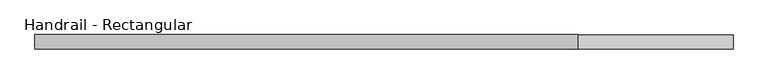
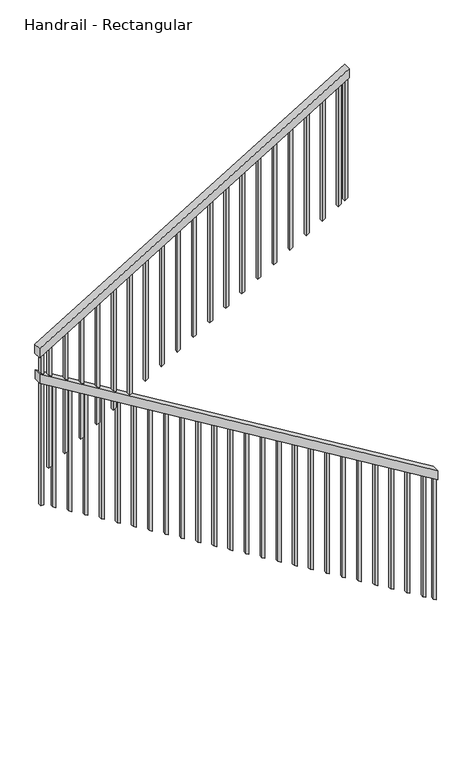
"""IFC4 building model written with IfcOpenShell, lengths in millimetres: railing geometry, Handrail - Rectangular."""

from ifc_helpers import new_model, si_unit, frame, origin, place, context, project, spatial, polyline, outline, extrude, source, transform, mapped, element, save


def handrail_rectangular_be6d6456(model_context):
    return source(origin(), model_context, "Body", "SweptSolid", [
        extrude(outline(polyline([(1024.3318731, -9134.3892301), (1083.7333333, -9134.3892301), (2607.7333333, -11648.9892301), (2548.3318731, -11648.9892301), (1024.3318731, -9134.3892301)])), frame((0.0, 4662.0514029, 0.0), z_axis=(0.0, 1.0, 0.0), x_axis=(0.0, 0.0, 1.0)), (0.0, 0.0, 1.0), 50.8),
        extrude(outline(polyline([(2777.0666667, -11648.9892301), (2717.6652064, -11648.9892301), (3902.9985397, -9693.1892301), (3962.4, -9693.1892301), (2777.0666667, -11648.9892301)])), frame((0.0, 4663.2611499, 0.0), z_axis=(0.0, 1.0, 0.0), x_axis=(0.0, 0.0, 1.0)), (0.0, 0.0, 1.0), 50.8),
        extrude(outline(polyline([(3877.9833882, -9734.4642301), (3866.4379337, -9753.5142301), (3054.2205726, -9753.5142301), (3065.7660271, -9734.4642301), (3877.9833882, -9734.4642301)])), frame((0.0, 4679.1361499, 0.0), z_axis=(0.0, 1.0, 0.0), x_axis=(0.0, 0.0, 1.0)), (0.0, 0.0, 1.0), 19.05),
        extrude(outline(polyline([(3816.4076307, -9836.0642301), (3804.8621761, -9855.1142301), (2992.644815, -9855.1142301), (3004.1902695, -9836.0642301), (3816.4076307, -9836.0642301)])), frame((0.0, 4679.1361499, 0.0), z_axis=(0.0, 1.0, 0.0), x_axis=(0.0, 0.0, 1.0)), (0.0, 0.0, 1.0), 19.05),
        extrude(outline(polyline([(3754.8318731, -9937.6642301), (3743.2864185, -9956.7142301), (2931.0690574, -9956.7142301), (2942.614512, -9937.6642301), (3754.8318731, -9937.6642301)])), frame((0.0, 4679.1361499, 0.0), z_axis=(0.0, 1.0, 0.0), x_axis=(0.0, 0.0, 1.0)), (0.0, 0.0, 1.0), 19.05),
        extrude(outline(polyline([(3693.2561155, -10039.2642301), (3681.710661, -10058.3142301), (2869.4932998, -10058.3142301), (2881.0387544, -10039.2642301), (3693.2561155, -10039.2642301)])), frame((0.0, 4679.1361499, 0.0), z_axis=(0.0, 1.0, 0.0), x_axis=(0.0, 0.0, 1.0)), (0.0, 0.0, 1.0), 19.05),
        extrude(outline(polyline([(3631.6803579, -10140.8642301), (3620.1349034, -10159.9142301), (2807.9175423, -10159.9142301), (2819.4629968, -10140.8642301), (3631.6803579, -10140.8642301)])), frame((0.0, 4679.1361499, 0.0), z_axis=(0.0, 1.0, 0.0), x_axis=(0.0, 0.0, 1.0)), (0.0, 0.0, 1.0), 19.05),
        extrude(outline(polyline([(3570.1046004, -10242.4642301), (3558.5591458, -10261.5142301), (2746.3417847, -10261.5142301), (2757.8872392, -10242.4642301), (3570.1046004, -10242.4642301)])), frame((0.0, 4679.1361499, 0.0), z_axis=(0.0, 1.0, 0.0), x_axis=(0.0, 0.0, 1.0)), (0.0, 0.0, 1.0), 19.05),
        extrude(outline(polyline([(3508.5288428, -10344.0642301), (3496.9833882, -10363.1142301), (2684.7660271, -10363.1142301), (2696.3114817, -10344.0642301), (3508.5288428, -10344.0642301)])), frame((0.0, 4679.1361499, 0.0), z_axis=(0.0, 1.0, 0.0), x_axis=(0.0, 0.0, 1.0)), (0.0, 0.0, 1.0), 19.05),
        extrude(outline(polyline([(3446.9530852, -10445.6642301), (3435.4076307, -10464.7142301), (2623.1902695, -10464.7142301), (2634.7357241, -10445.6642301), (3446.9530852, -10445.6642301)])), frame((0.0, 4679.1361499, 0.0), z_axis=(0.0, 1.0, 0.0), x_axis=(0.0, 0.0, 1.0)), (0.0, 0.0, 1.0), 19.05),
        extrude(outline(polyline([(3385.3773276, -10547.2642301), (3373.8318731, -10566.3142301), (2561.614512, -10566.3142301), (2573.1599665, -10547.2642301), (3385.3773276, -10547.2642301)])), frame((0.0, 4679.1361499, 0.0), z_axis=(0.0, 1.0, 0.0), x_axis=(0.0, 0.0, 1.0)), (0.0, 0.0, 1.0), 19.05),
        extrude(outline(polyline([(3323.80157, -10648.8642301), (3312.2561155, -10667.9142301), (2500.0387544, -10667.9142301), (2511.5842089, -10648.8642301), (3323.80157, -10648.8642301)])), frame((0.0, 4679.1361499, 0.0), z_axis=(0.0, 1.0, 0.0), x_axis=(0.0, 0.0, 1.0)), (0.0, 0.0, 1.0), 19.05),
        extrude(outline(polyline([(3262.2258125, -10750.4642301), (3250.6803579, -10769.5142301), (2438.4629968, -10769.5142301), (2450.0084514, -10750.4642301), (3262.2258125, -10750.4642301)])), frame((0.0, 4679.1361499, 0.0), z_axis=(0.0, 1.0, 0.0), x_axis=(0.0, 0.0, 1.0)), (0.0, 0.0, 1.0), 19.05),
        extrude(outline(polyline([(3200.6500549, -10852.0642301), (3189.1046004, -10871.1142301), (2376.8872392, -10871.1142301), (2388.4326938, -10852.0642301), (3200.6500549, -10852.0642301)])), frame((0.0, 4679.1361499, 0.0), z_axis=(0.0, 1.0, 0.0), x_axis=(0.0, 0.0, 1.0)), (0.0, 0.0, 1.0), 19.05),
        extrude(outline(polyline([(3139.0742973, -10953.6642301), (3127.5288428, -10972.7142301), (2315.3114817, -10972.7142301), (2326.8569362, -10953.6642301), (3139.0742973, -10953.6642301)])), frame((0.0, 4679.1361499, 0.0), z_axis=(0.0, 1.0, 0.0), x_axis=(0.0, 0.0, 1.0)), (0.0, 0.0, 1.0), 19.05),
        extrude(outline(polyline([(3077.4985397, -11055.2642301), (3065.9530852, -11074.3142301), (2253.7357241, -11074.3142301), (2265.2811786, -11055.2642301), (3077.4985397, -11055.2642301)])), frame((0.0, 4679.1361499, 0.0), z_axis=(0.0, 1.0, 0.0), x_axis=(0.0, 0.0, 1.0)), (0.0, 0.0, 1.0), 19.05),
        extrude(outline(polyline([(3015.9227822, -11156.8642301), (3004.3773276, -11175.9142301), (2192.1599665, -11175.9142301), (2203.7054211, -11156.8642301), (3015.9227822, -11156.8642301)])), frame((0.0, 4679.1361499, 0.0), z_axis=(0.0, 1.0, 0.0), x_axis=(0.0, 0.0, 1.0)), (0.0, 0.0, 1.0), 19.05),
        extrude(outline(polyline([(2954.3470246, -11258.4642301), (2942.80157, -11277.5142301), (2130.5842089, -11277.5142301), (2142.1296635, -11258.4642301), (2954.3470246, -11258.4642301)])), frame((0.0, 4679.1361499, 0.0), z_axis=(0.0, 1.0, 0.0), x_axis=(0.0, 0.0, 1.0)), (0.0, 0.0, 1.0), 19.05),
        extrude(outline(polyline([(2892.771267, -11360.0642301), (2881.2258125, -11379.1142301), (2069.0084514, -11379.1142301), (2080.5539059, -11360.0642301), (2892.771267, -11360.0642301)])), frame((0.0, 4679.1361499, 0.0), z_axis=(0.0, 1.0, 0.0), x_axis=(0.0, 0.0, 1.0)), (0.0, 0.0, 1.0), 19.05),
        extrude(outline(polyline([(2831.1955094, -11461.6642301), (2819.6500549, -11480.7142301), (2007.4326938, -11480.7142301), (2018.9781483, -11461.6642301), (2831.1955094, -11461.6642301)])), frame((0.0, 4679.1361499, 0.0), z_axis=(0.0, 1.0, 0.0), x_axis=(0.0, 0.0, 1.0)), (0.0, 0.0, 1.0), 19.05),
        extrude(outline(polyline([(2769.6197519, -11563.2642301), (2758.0742973, -11582.3142301), (1945.8569362, -11582.3142301), (1957.4023907, -11563.2642301), (2769.6197519, -11563.2642301)])), frame((0.0, 4679.1361499, 0.0), z_axis=(0.0, 1.0, 0.0), x_axis=(0.0, 0.0, 1.0)), (0.0, 0.0, 1.0), 19.05),
        extrude(outline(polyline([(2480.9833882, -11537.8642301), (2492.5288428, -11556.9142301), (1680.3114817, -11556.9142301), (1668.7660271, -11537.8642301), (2480.9833882, -11537.8642301)])), frame((0.0, 4677.9264029, 0.0), z_axis=(0.0, 1.0, 0.0), x_axis=(0.0, 0.0, 1.0)), (0.0, 0.0, 1.0), 19.05),
        extrude(outline(polyline([(2419.4076307, -11436.2642301), (2430.9530852, -11455.3142301), (1618.7357241, -11455.3142301), (1607.1902695, -11436.2642301), (2419.4076307, -11436.2642301)])), frame((0.0, 4677.9264029, 0.0), z_axis=(0.0, 1.0, 0.0), x_axis=(0.0, 0.0, 1.0)), (0.0, 0.0, 1.0), 19.05),
        extrude(outline(polyline([(2357.8318731, -11334.6642301), (2369.3773276, -11353.7142301), (1557.1599665, -11353.7142301), (1545.614512, -11334.6642301), (2357.8318731, -11334.6642301)])), frame((0.0, 4677.9264029, 0.0), z_axis=(0.0, 1.0, 0.0), x_axis=(0.0, 0.0, 1.0)), (0.0, 0.0, 1.0), 19.05),
        extrude(outline(polyline([(2296.2561155, -11233.0642301), (2307.80157, -11252.1142301), (1495.5842089, -11252.1142301), (1484.0387544, -11233.0642301), (2296.2561155, -11233.0642301)])), frame((0.0, 4677.9264029, 0.0), z_axis=(0.0, 1.0, 0.0), x_axis=(0.0, 0.0, 1.0)), (0.0, 0.0, 1.0), 19.05),
        extrude(outline(polyline([(2234.6803579, -11131.4642301), (2246.2258125, -11150.5142301), (1434.0084514, -11150.5142301), (1422.4629968, -11131.4642301), (2234.6803579, -11131.4642301)])), frame((0.0, 4677.9264029, 0.0), z_axis=(0.0, 1.0, 0.0), x_axis=(0.0, 0.0, 1.0)), (0.0, 0.0, 1.0), 19.05),
        extrude(outline(polyline([(2173.1046004, -11029.8642301), (2184.6500549, -11048.9142301), (1372.4326938, -11048.9142301), (1360.8872392, -11029.8642301), (2173.1046004, -11029.8642301)])), frame((0.0, 4677.9264029, 0.0), z_axis=(0.0, 1.0, 0.0), x_axis=(0.0, 0.0, 1.0)), (0.0, 0.0, 1.0), 19.05),
        extrude(outline(polyline([(2111.5288428, -10928.2642301), (2123.0742973, -10947.3142301), (1310.8569362, -10947.3142301), (1299.3114817, -10928.2642301), (2111.5288428, -10928.2642301)])), frame((0.0, 4677.9264029, 0.0), z_axis=(0.0, 1.0, 0.0), x_axis=(0.0, 0.0, 1.0)), (0.0, 0.0, 1.0), 19.05),
        extrude(outline(polyline([(2049.9530852, -10826.6642301), (2061.4985397, -10845.7142301), (1249.2811786, -10845.7142301), (1237.7357241, -10826.6642301), (2049.9530852, -10826.6642301)])), frame((0.0, 4677.9264029, 0.0), z_axis=(0.0, 1.0, 0.0), x_axis=(0.0, 0.0, 1.0)), (0.0, 0.0, 1.0), 19.05),
        extrude(outline(polyline([(1988.3773276, -10725.0642301), (1999.9227822, -10744.1142301), (1187.7054211, -10744.1142301), (1176.1599665, -10725.0642301), (1988.3773276, -10725.0642301)])), frame((0.0, 4677.9264029, 0.0), z_axis=(0.0, 1.0, 0.0), x_axis=(0.0, 0.0, 1.0)), (0.0, 0.0, 1.0), 19.05),
        extrude(outline(polyline([(1926.80157, -10623.4642301), (1938.3470246, -10642.5142301), (1126.1296635, -10642.5142301), (1114.5842089, -10623.4642301), (1926.80157, -10623.4642301)])), frame((0.0, 4677.9264029, 0.0), z_axis=(0.0, 1.0, 0.0), x_axis=(0.0, 0.0, 1.0)), (0.0, 0.0, 1.0), 19.05),
        extrude(outline(polyline([(1865.2258125, -10521.8642301), (1876.771267, -10540.9142301), (1064.5539059, -10540.9142301), (1053.0084514, -10521.8642301), (1865.2258125, -10521.8642301)])), frame((0.0, 4677.9264029, 0.0), z_axis=(0.0, 1.0, 0.0), x_axis=(0.0, 0.0, 1.0)), (0.0, 0.0, 1.0), 19.05),
        extrude(outline(polyline([(1803.6500549, -10420.2642301), (1815.1955094, -10439.3142301), (1002.9781483, -10439.3142301), (991.4326938, -10420.2642301), (1803.6500549, -10420.2642301)])), frame((0.0, 4677.9264029, 0.0), z_axis=(0.0, 1.0, 0.0), x_axis=(0.0, 0.0, 1.0)), (0.0, 0.0, 1.0), 19.05),
        extrude(outline(polyline([(1742.0742973, -10318.6642301), (1753.6197519, -10337.7142301), (941.4023907, -10337.7142301), (929.8569362, -10318.6642301), (1742.0742973, -10318.6642301)])), frame((0.0, 4677.9264029, 0.0), z_axis=(0.0, 1.0, 0.0), x_axis=(0.0, 0.0, 1.0)), (0.0, 0.0, 1.0), 19.05),
        extrude(outline(polyline([(1680.4985397, -10217.0642301), (1692.0439943, -10236.1142301), (879.8266332, -10236.1142301), (868.2811786, -10217.0642301), (1680.4985397, -10217.0642301)])), frame((0.0, 4677.9264029, 0.0), z_axis=(0.0, 1.0, 0.0), x_axis=(0.0, 0.0, 1.0)), (0.0, 0.0, 1.0), 19.05),
        extrude(outline(polyline([(1618.9227822, -10115.4642301), (1630.4682367, -10134.5142301), (818.2508756, -10134.5142301), (806.7054211, -10115.4642301), (1618.9227822, -10115.4642301)])), frame((0.0, 4677.9264029, 0.0), z_axis=(0.0, 1.0, 0.0), x_axis=(0.0, 0.0, 1.0)), (0.0, 0.0, 1.0), 19.05),
        extrude(outline(polyline([(1557.3470246, -10013.8642301), (1568.8924791, -10032.9142301), (756.675118, -10032.9142301), (745.1296635, -10013.8642301), (1557.3470246, -10013.8642301)])), frame((0.0, 4677.9264029, 0.0), z_axis=(0.0, 1.0, 0.0), x_axis=(0.0, 0.0, 1.0)), (0.0, 0.0, 1.0), 19.05),
        extrude(outline(polyline([(1495.771267, -9912.2642301), (1507.3167216, -9931.3142301), (695.0993604, -9931.3142301), (683.5539059, -9912.2642301), (1495.771267, -9912.2642301)])), frame((0.0, 4677.9264029, 0.0), z_axis=(0.0, 1.0, 0.0), x_axis=(0.0, 0.0, 1.0)), (0.0, 0.0, 1.0), 19.05),
        extrude(outline(polyline([(1434.1955094, -9810.6642301), (1445.740964, -9829.7142301), (633.5236029, -9829.7142301), (621.9781483, -9810.6642301), (1434.1955094, -9810.6642301)])), frame((0.0, 4677.9264029, 0.0), z_axis=(0.0, 1.0, 0.0), x_axis=(0.0, 0.0, 1.0)), (0.0, 0.0, 1.0), 19.05),
        extrude(outline(polyline([(1372.6197519, -9709.0642301), (1384.1652064, -9728.1142301), (571.9478453, -9728.1142301), (560.4023907, -9709.0642301), (1372.6197519, -9709.0642301)])), frame((0.0, 4677.9264029, 0.0), z_axis=(0.0, 1.0, 0.0), x_axis=(0.0, 0.0, 1.0)), (0.0, 0.0, 1.0), 19.05),
        extrude(outline(polyline([(1311.0439943, -9607.4642301), (1322.5894488, -9626.5142301), (510.3720877, -9626.5142301), (498.8266332, -9607.4642301), (1311.0439943, -9607.4642301)])), frame((0.0, 4677.9264029, 0.0), z_axis=(0.0, 1.0, 0.0), x_axis=(0.0, 0.0, 1.0)), (0.0, 0.0, 1.0), 19.05),
        extrude(outline(polyline([(1249.4682367, -9505.8642301), (1261.0136913, -9524.9142301), (448.7963301, -9524.9142301), (437.2508756, -9505.8642301), (1249.4682367, -9505.8642301)])), frame((0.0, 4677.9264029, 0.0), z_axis=(0.0, 1.0, 0.0), x_axis=(0.0, 0.0, 1.0)), (0.0, 0.0, 1.0), 19.05),
        extrude(outline(polyline([(1187.8924791, -9404.2642301), (1199.4379337, -9423.3142301), (387.2205726, -9423.3142301), (375.675118, -9404.2642301), (1187.8924791, -9404.2642301)])), frame((0.0, 4677.9264029, 0.0), z_axis=(0.0, 1.0, 0.0), x_axis=(0.0, 0.0, 1.0)), (0.0, 0.0, 1.0), 19.05),
        extrude(outline(polyline([(1126.3167216, -9302.6642301), (1137.8621761, -9321.7142301), (325.644815, -9321.7142301), (314.0993604, -9302.6642301), (1126.3167216, -9302.6642301)])), frame((0.0, 4677.9264029, 0.0), z_axis=(0.0, 1.0, 0.0), x_axis=(0.0, 0.0, 1.0)), (0.0, 0.0, 1.0), 19.05),
        extrude(outline(polyline([(1064.740964, -9201.0642301), (1076.2864185, -9220.1142301), (264.0690574, -9220.1142301), (252.5236029, -9201.0642301), (1064.740964, -9201.0642301)])), frame((0.0, 4677.9264029, 0.0), z_axis=(0.0, 1.0, 0.0), x_axis=(0.0, 0.0, 1.0)), (0.0, 0.0, 1.0), 19.05),
        extrude(outline(polyline([(2738.8318731, -11614.0642301), (2727.2864185, -11633.1142301), (1714.9478453, -11633.1142301), (1726.4932998, -11614.0642301), (2738.8318731, -11614.0642301)])), frame((0.0, 4679.1361499, 0.0), z_axis=(0.0, 1.0, 0.0), x_axis=(0.0, 0.0, 1.0)), (0.0, 0.0, 1.0), 19.05),
        extrude(outline(polyline([(4677.9264029, 2556.9333333), (4696.9764029, 2556.9333333), (4696.9764029, 1726.4932998), (4677.9264029, 1714.9478453), (4677.9264029, 2556.9333333)])), frame((-11633.1142301, 0.0, 0.0), z_axis=(1.0, 0.0, 0.0), x_axis=(0.0, 1.0, 0.0)), (0.0, 0.0, 1.0), 19.05),
        extrude(outline(polyline([(3902.9985397, -9693.1892301), (3891.4530852, -9712.2392301), (3079.2357241, -9712.2392301), (3090.7811786, -9693.1892301), (3902.9985397, -9693.1892301)])), frame((0.0, 4679.1361499, 0.0), z_axis=(0.0, 1.0, 0.0), x_axis=(0.0, 0.0, 1.0)), (0.0, 0.0, 1.0), 19.05),
        extrude(outline(polyline([(1024.3318731, -9134.3892301), (1035.8773276, -9153.4392301), (223.6599665, -9153.4392301), (212.114512, -9134.3892301), (1024.3318731, -9134.3892301)])), frame((0.0, 4677.9264029, 0.0), z_axis=(0.0, 1.0, 0.0), x_axis=(0.0, 0.0, 1.0)), (0.0, 0.0, 1.0), 19.05),
    ])


if __name__ == "__main__":
    model = new_model("IFC4")
    model_context = context("Model", 3, world=origin())
    ifc_project = project(units=[si_unit("LENGTHUNIT", "METRE", prefix="MILLI")], contexts=[model_context])
    site = spatial("IfcSite", under=ifc_project)
    building = spatial("IfcBuilding", under=site)
    placement = place(None, origin())
    handrail_rectangular_shape = handrail_rectangular_be6d6456(model_context)
    element("IfcRailing", 1, ObjectType="Handrail - Rectangular", at=placement, inside=building, context=model_context, shape_type="MappedRepresentation", body=[
        mapped(handrail_rectangular_shape, transform((0.0, 0.0, 0.0), x_axis=(1.0, 0.0, 0.0), y_axis=(0.0, 1.0, 0.0), z_axis=(0.0, 0.0, 1.0))),
    ])
    save(model, "model.ifc")
